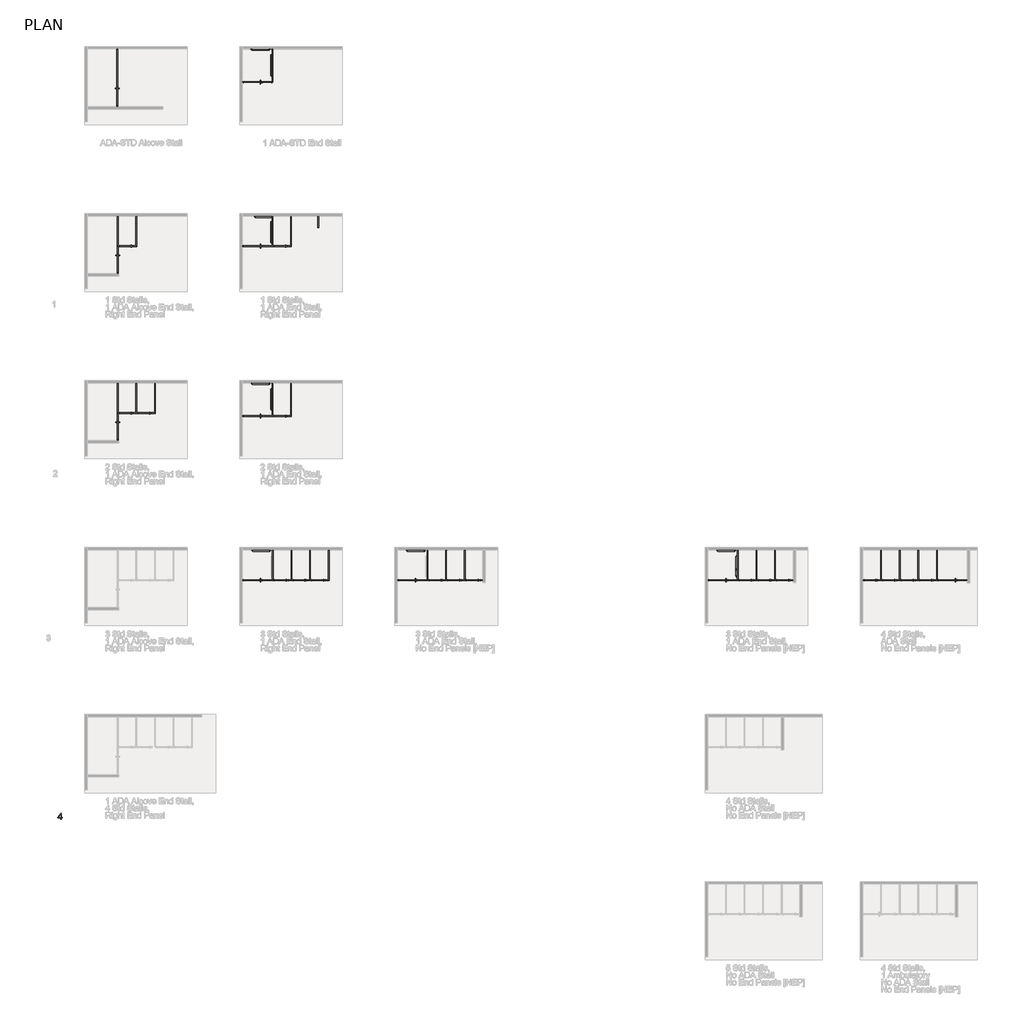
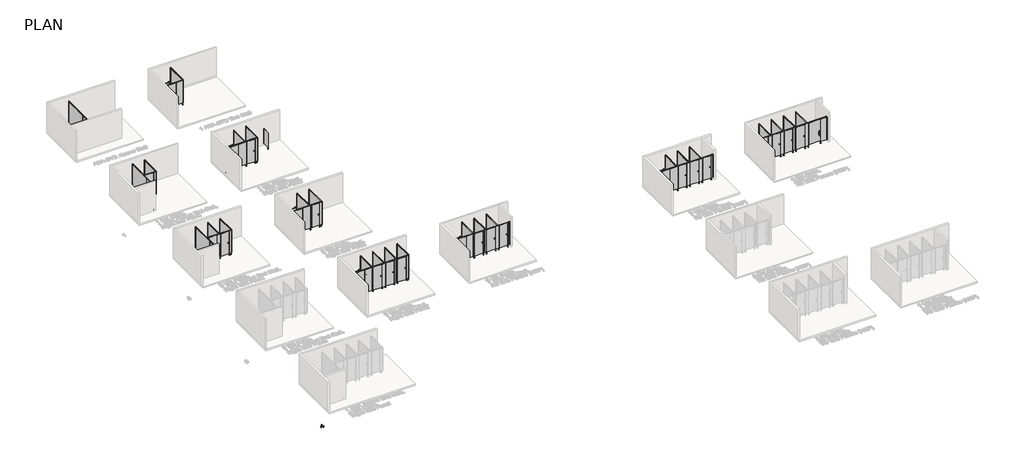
# One storey, part 2 of 21: 26 proxies.
"""IFC4 building model written with IfcOpenShell, lengths in millimetres."""

from ifc_helpers import new_model, si_unit, origin, origin_with_axes, place, context, project, spatial, polyline, outline, extrude, transform, mapped, element, save
from components import specialty_equipment_a1a55d40, specialty_equipment_827a1ed1, specialty_equipment_e34e834b, specialty_equipment_249e6da1, specialty_equipment_1f7793d3, specialty_equipment_3e80f648, specialty_equipment_5ce4a985, specialty_equipment_d99f570f, specialty_equipment_3219aa44, specialty_equipment_5f19d8a4, specialty_equipment_f79f568c, specialty_equipment_3089a15b, specialty_equipment_e9cd40da, specialty_equipment_4b52170b, specialty_equipment_f36be7ab, specialty_equipment_b5675cf3, specialty_equipment_164d930f, specialty_equipment_23c630fa, specialty_equipment_6bcbe845, specialty_equipment_0840d314, proxy_812_grab_bars1_bdd373ed, proxy_812_grab_bars1_ef4de83a, proxy_812_grab_bars1_0ab72b95

model = new_model("IFC4")

# Units and contexts
model_context = context("Model", 3, world=origin())
ifc_project = project(units=[si_unit("LENGTHUNIT", "METRE", prefix="MILLI")], contexts=[model_context])

# Site, building, storey
site = spatial("IfcSite", under=ifc_project)
building = spatial("IfcBuilding", under=site)
storey = spatial("IfcBuildingStorey", under=building, Name="PLAN", Elevation=0.0)

# Proxies
placement = place(None, origin())
specialty_equipment_shape = specialty_equipment_a1a55d40(model_context)
specialty_equipment_2_shape = specialty_equipment_827a1ed1(model_context)
element("IfcBuildingElementProxy", 1, Name="Partition_EuroStyle-Bradley_Corp-ADA_Alcove_2StandardStall-LOFT : Partition_EuroStyle-Bradley_Corp-ADA_Alcove_2StandardStall-LOFT", ObjectType="Partition_EuroStyle-Bradley_Corp-ADA_Alcove_2StandardStall-LOFT : Partition_EuroStyle-Bradley_Corp-ADA_Alcove_2StandardStall-LOFT", at=placement, inside=storey, context=model_context, shape_type="MappedRepresentation", body=[
    mapped(specialty_equipment_shape, transform((-22966.7331895, 16684.2493152, 0.0), x_axis=(1.0, 0.0, 0.0), y_axis=(0.0, 1.0, 0.0), z_axis=(0.0, 0.0, 1.0))),
    mapped(specialty_equipment_2_shape, transform((-22966.7331895, 16684.2493152, 0.0), x_axis=(1.0, 0.0, 0.0), y_axis=(0.0, 1.0, 0.0), z_axis=(0.0, 0.0, 1.0))),
])
specialty_equipment_3_shape = specialty_equipment_e34e834b(model_context)
element("IfcBuildingElementProxy", 2, Name="Partition_EuroStyle-Bradley_Corp-ADA-STD_Stall_-LOFT : Partition_EuroStyle-Bradley_Corp-ADA-STD_Stall_-LOFT", ObjectType="Partition_EuroStyle-Bradley_Corp-ADA-STD_Stall_-LOFT : Partition_EuroStyle-Bradley_Corp-ADA-STD_Stall_-LOFT", at=placement, inside=storey, context=model_context, shape_type="MappedRepresentation", body=[
    mapped(specialty_equipment_3_shape, transform((-14914.9331895, 33753.0493152, 0.0), x_axis=(1.0, 0.0, 0.0), y_axis=(0.0, 1.0, 0.0), z_axis=(0.0, 0.0, 1.0))),
])
specialty_equipment_4_shape = specialty_equipment_249e6da1(model_context)
element("IfcBuildingElementProxy", 3, Name="Partition_EuroStyle-Bradley_Corp-ADA_STD_Alcove-LOFT : Partition_EuroStyle-Bradley_Corp-ADA_STD_Alcove-LOFT", ObjectType="Partition_EuroStyle-Bradley_Corp-ADA_STD_Alcove-LOFT : Partition_EuroStyle-Bradley_Corp-ADA_STD_Alcove-LOFT", at=placement, inside=storey, context=model_context, shape_type="MappedRepresentation", body=[
    mapped(specialty_equipment_4_shape, transform((-22966.7331895, 33753.0493152, 0.0), x_axis=(1.0, 0.0, 0.0), y_axis=(0.0, 1.0, 0.0), z_axis=(0.0, 0.0, 1.0))),
])
specialty_equipment_5_shape = specialty_equipment_1f7793d3(model_context)
element("IfcBuildingElementProxy", 4, Name="Partition_Urinal_Screen-Bradley_Corp-EuroStyle_LOFT : Partition_Urinal_Screen-Bradley_Corp-EuroStyle_LOFT", ObjectType="Partition_Urinal_Screen-Bradley_Corp-EuroStyle_LOFT : Partition_Urinal_Screen-Bradley_Corp-EuroStyle_LOFT", at=placement, inside=storey, context=model_context, shape_type="MappedRepresentation", body=[
    mapped(specialty_equipment_5_shape, transform((-11157.452511, 25218.6493152, 0.0), x_axis=(1.0, 0.0, 0.0), y_axis=(0.0, 1.0, 0.0), z_axis=(0.0, 0.0, 1.0))),
])
specialty_equipment_6_shape = specialty_equipment_3e80f648(model_context)
specialty_equipment_7_shape = specialty_equipment_5ce4a985(model_context)
element("IfcBuildingElementProxy", 5, Name="Partition_EuroStyle-Bradley_Corp-ADA_Alcove_1StandardStall-LOFT : Partition_EuroStyle-Bradley_Corp-ADA_Alcove_1StandardStall-LOFT", ObjectType="Partition_EuroStyle-Bradley_Corp-ADA_Alcove_1StandardStall-LOFT : Partition_EuroStyle-Bradley_Corp-ADA_Alcove_1StandardStall-LOFT", at=placement, inside=storey, context=model_context, shape_type="MappedRepresentation", body=[
    mapped(specialty_equipment_6_shape, transform((-22966.7331895, 25218.6493152, 0.0), x_axis=(1.0, 0.0, 0.0), y_axis=(0.0, 1.0, 0.0), z_axis=(0.0, 0.0, 1.0))),
    mapped(specialty_equipment_7_shape, transform((-22966.7331895, 25218.6493152, 0.0), x_axis=(1.0, 0.0, 0.0), y_axis=(0.0, 1.0, 0.0), z_axis=(0.0, 0.0, 1.0))),
])
specialty_equipment_8_shape = specialty_equipment_d99f570f(model_context)
specialty_equipment_9_shape = specialty_equipment_3219aa44(model_context)
specialty_equipment_10_shape = specialty_equipment_5f19d8a4(model_context)
element("IfcBuildingElementProxy", 6, Name="Partition_EuroStyle-Bradley_Corp-ADAStall_3StandardStall-NEP-LOFT : Partition_EuroStyle-Bradley_Corp-ADAStall_3StandardStall-NEP-LOFT", ObjectType="Partition_EuroStyle-Bradley_Corp-ADAStall_3StandardStall-NEP-LOFT : Partition_EuroStyle-Bradley_Corp-ADAStall_3StandardStall-NEP-LOFT", at=placement, inside=storey, context=model_context, shape_type="MappedRepresentation", body=[
    mapped(specialty_equipment_8_shape, transform((-6990.1331895, 8149.8493152, 0.0), x_axis=(1.0, 0.0, 0.0), y_axis=(0.0, 1.0, 0.0), z_axis=(0.0, 0.0, 1.0))),
    mapped(specialty_equipment_9_shape, transform((-6990.1331895, 8149.8493152, 0.0), x_axis=(1.0, 0.0, 0.0), y_axis=(0.0, 1.0, 0.0), z_axis=(0.0, 0.0, 1.0))),
    mapped(specialty_equipment_10_shape, transform((-6990.1331895, 8149.8493152, 0.0), x_axis=(1.0, 0.0, 0.0), y_axis=(0.0, 1.0, 0.0), z_axis=(0.0, 0.0, 1.0))),
])
element("IfcBuildingElementProxy", 7, Name="Partition_EuroStyle-Bradley_Corp-ADAStall_3StandardStall-NEP-LOFT : Partition_EuroStyle-Bradley_Corp-ADAStall_3StandardStall-NEP-LOFT", ObjectType="Partition_EuroStyle-Bradley_Corp-ADAStall_3StandardStall-NEP-LOFT : Partition_EuroStyle-Bradley_Corp-ADAStall_3StandardStall-NEP-LOFT", at=placement, inside=storey, context=model_context, shape_type="MappedRepresentation", body=[
    mapped(specialty_equipment_8_shape, transform((8859.4668105, 8149.8493152, 0.0), x_axis=(1.0, 0.0, 0.0), y_axis=(0.0, 1.0, 0.0), z_axis=(0.0, 0.0, 1.0))),
    mapped(specialty_equipment_9_shape, transform((8859.4668105, 8149.8493152, 0.0), x_axis=(1.0, 0.0, 0.0), y_axis=(0.0, 1.0, 0.0), z_axis=(0.0, 0.0, 1.0))),
    mapped(specialty_equipment_10_shape, transform((8859.4668105, 8149.8493152, 0.0), x_axis=(1.0, 0.0, 0.0), y_axis=(0.0, 1.0, 0.0), z_axis=(0.0, 0.0, 1.0))),
])
specialty_equipment_11_shape = specialty_equipment_f79f568c(model_context)
specialty_equipment_12_shape = specialty_equipment_3089a15b(model_context)
specialty_equipment_13_shape = specialty_equipment_e9cd40da(model_context)
element("IfcBuildingElementProxy", 8, Name="Partition_EuroStyle-Bradley_Corp-ADAStall_3StandardStall-LOFT : Partition_EuroStyle-Bradley_Corp-ADAStall_3StandardStall-LOFT", ObjectType="Partition_EuroStyle-Bradley_Corp-ADAStall_3StandardStall-LOFT : Partition_EuroStyle-Bradley_Corp-ADAStall_3StandardStall-LOFT", at=placement, inside=storey, context=model_context, shape_type="MappedRepresentation", body=[
    mapped(specialty_equipment_11_shape, transform((-14914.9331895, 8149.8493152, 0.0), x_axis=(1.0, 0.0, 0.0), y_axis=(0.0, 1.0, 0.0), z_axis=(0.0, 0.0, 1.0))),
    mapped(specialty_equipment_12_shape, transform((-14914.9331895, 8149.8493152, 0.0), x_axis=(1.0, 0.0, 0.0), y_axis=(0.0, 1.0, 0.0), z_axis=(0.0, 0.0, 1.0))),
    mapped(specialty_equipment_13_shape, transform((-14914.9331895, 8149.8493152, 0.0), x_axis=(1.0, 0.0, 0.0), y_axis=(0.0, 1.0, 0.0), z_axis=(0.0, 0.0, 1.0))),
])
specialty_equipment_14_shape = specialty_equipment_4b52170b(model_context)
specialty_equipment_15_shape = specialty_equipment_f36be7ab(model_context)
element("IfcBuildingElementProxy", 9, Name="Partition_EuroStyle-Bradley_Corp-ADAStall_1StandardStall-LOFT : Partition_EuroStyle-Bradley_Corp-ADAStall_1StandardStall-LOFT", ObjectType="Partition_EuroStyle-Bradley_Corp-ADAStall_1StandardStall-LOFT : Partition_EuroStyle-Bradley_Corp-ADAStall_1StandardStall-LOFT", at=placement, inside=storey, context=model_context, shape_type="MappedRepresentation", body=[
    mapped(specialty_equipment_14_shape, transform((-14914.9331895, 16684.2493152, 0.0), x_axis=(1.0, 0.0, 0.0), y_axis=(0.0, 1.0, 0.0), z_axis=(0.0, 0.0, 1.0))),
    mapped(specialty_equipment_15_shape, transform((-14914.9331895, 16684.2493152, 0.0), x_axis=(1.0, 0.0, 0.0), y_axis=(0.0, 1.0, 0.0), z_axis=(0.0, 0.0, 1.0))),
])
specialty_equipment_16_shape = specialty_equipment_b5675cf3(model_context)
specialty_equipment_17_shape = specialty_equipment_164d930f(model_context)
element("IfcBuildingElementProxy", 10, Name="Partition_EuroStyle-Bradley_Corp-ADAStall_1StandardStall-LOFT : Partition_EuroStyle-Bradley_Corp-ADAStall_1StandardStall-LOFT", ObjectType="Partition_EuroStyle-Bradley_Corp-ADAStall_1StandardStall-LOFT : Partition_EuroStyle-Bradley_Corp-ADAStall_1StandardStall-LOFT", at=placement, inside=storey, context=model_context, shape_type="MappedRepresentation", body=[
    mapped(specialty_equipment_16_shape, transform((-14914.9331895, 25218.6493152, 0.0), x_axis=(1.0, 0.0, 0.0), y_axis=(0.0, 1.0, 0.0), z_axis=(0.0, 0.0, 1.0))),
    mapped(specialty_equipment_17_shape, transform((-14914.9331895, 25218.6493152, 0.0), x_axis=(1.0, 0.0, 0.0), y_axis=(0.0, 1.0, 0.0), z_axis=(0.0, 0.0, 1.0))),
])
specialty_equipment_18_shape = specialty_equipment_23c630fa(model_context)
specialty_equipment_19_shape = specialty_equipment_6bcbe845(model_context)
specialty_equipment_20_shape = specialty_equipment_0840d314(model_context)
element("IfcBuildingElementProxy", 11, Name="Partition_EuroStyle-Bradley_Corp-ADA-4StandardStall-NEP-LOFT : Partition_EuroStyle-Bradley_Corp-ADA-4StandardStall-NEP-LOFT", ObjectType="Partition_EuroStyle-Bradley_Corp-ADA-4StandardStall-NEP-LOFT : Partition_EuroStyle-Bradley_Corp-ADA-4StandardStall-NEP-LOFT", at=placement, inside=storey, context=model_context, shape_type="MappedRepresentation", body=[
    mapped(specialty_equipment_18_shape, transform((16785.1058603, 8149.8493152, 0.0), x_axis=(1.0, 0.0, 0.0), y_axis=(0.0, 1.0, 0.0), z_axis=(0.0, 0.0, 1.0))),
    mapped(specialty_equipment_19_shape, transform((16785.1058603, 8149.8493152, 0.0), x_axis=(1.0, 0.0, 0.0), y_axis=(0.0, 1.0, 0.0), z_axis=(0.0, 0.0, 1.0))),
    mapped(specialty_equipment_20_shape, transform((16785.1058603, 8149.8493152, 0.0), x_axis=(1.0, 0.0, 0.0), y_axis=(0.0, 1.0, 0.0), z_axis=(0.0, 0.0, 1.0))),
])
element("IfcBuildingElementProxy", 12, Name="12\" Arial", ObjectType="12\" Arial", at=placement, inside=storey, context=model_context, shape_type="SweptSolid", body=[
    extrude(outline(polyline([(-24316.1093049, -5613.5017641), (-24316.1093049, -5542.1188514), (-24454.1162694, -5542.1188514), (-24454.1162694, -5504.0479647), (-24306.5915832, -5313.6935309), (-24278.0384181, -5313.6935309), (-24278.0384181, -5504.0479647), (-24239.9675313, -5504.0479647), (-24239.9675313, -5542.1188514), (-24278.0384181, -5542.1188514), (-24278.0384181, -5613.5017641), (-24316.1093049, -5613.5017641)]), holes=[polyline([(-24316.1093049, -5504.0479647), (-24316.1093049, -5386.4148732), (-24407.2712329, -5504.0479647), (-24316.1093049, -5504.0479647)])]), origin_with_axes(), (0.0, 0.0, 1.0), 50.8),
])
proxy_812_grab_bars1_shape = proxy_812_grab_bars1_bdd373ed(model_context)
element("IfcBuildingElementProxy", 13, Name="812_Grab_Bars1 : 8122-001180", ObjectType="812_Grab_Bars1 : 8122-001180", at=placement, inside=storey, context=model_context, shape_type="MappedRepresentation", body=[
    mapped(proxy_812_grab_bars1_shape, transform((-13517.9331895, 24764.6243152, 1163.6375), x_axis=(0.0, 0.0, 1.0), y_axis=(0.0, 1.0, 0.0), z_axis=(-1.0, 0.0, 0.0))),
])
element("IfcBuildingElementProxy", 14, Name="812_Grab_Bars1 : 8122-001180", ObjectType="812_Grab_Bars1 : 8122-001180", at=placement, inside=storey, context=model_context, shape_type="MappedRepresentation", body=[
    mapped(proxy_812_grab_bars1_shape, transform((-13517.9331895, 33299.0243152, 1163.6375), x_axis=(0.0, 0.0, 1.0), y_axis=(0.0, 1.0, 0.0), z_axis=(-1.0, 0.0, 0.0))),
])
element("IfcBuildingElementProxy", 15, Name="812_Grab_Bars1 : 8122-001180", ObjectType="812_Grab_Bars1 : 8122-001180", at=placement, inside=storey, context=model_context, shape_type="MappedRepresentation", body=[
    mapped(proxy_812_grab_bars1_shape, transform((-13517.9331895, 16230.2243152, 1163.6375), x_axis=(0.0, 0.0, 1.0), y_axis=(0.0, 1.0, 0.0), z_axis=(-1.0, 0.0, 0.0))),
])
element("IfcBuildingElementProxy", 16, Name="812_Grab_Bars1 : 8122-001180", ObjectType="812_Grab_Bars1 : 8122-001180", at=placement, inside=storey, context=model_context, shape_type="MappedRepresentation", body=[
    mapped(proxy_812_grab_bars1_shape, transform((10256.4668105, 7695.8243152, 1163.6375), x_axis=(0.0, 0.0, 1.0), y_axis=(0.0, 1.0, 0.0), z_axis=(-1.0, 0.0, 0.0))),
])
proxy_812_grab_bars1_2_shape = proxy_812_grab_bars1_ef4de83a(model_context)
element("IfcBuildingElementProxy", 17, Name="812_Grab_Bars1 : 8122-001420", ObjectType="812_Grab_Bars1 : 8122-001420", at=placement, inside=storey, context=model_context, shape_type="MappedRepresentation", body=[
    mapped(proxy_812_grab_bars1_2_shape, transform((-13517.9331895, 24324.8868152, 1431.925), x_axis=(0.0, 1.0, 0.0), y_axis=(0.0, 0.0, -1.0), z_axis=(-1.0, 0.0, 0.0))),
])
element("IfcBuildingElementProxy", 18, Name="812_Grab_Bars1 : 8122-001420", ObjectType="812_Grab_Bars1 : 8122-001420", at=placement, inside=storey, context=model_context, shape_type="MappedRepresentation", body=[
    mapped(proxy_812_grab_bars1_2_shape, transform((-13517.9331895, 32859.2868152, 1431.925), x_axis=(0.0, 1.0, 0.0), y_axis=(0.0, 0.0, -1.0), z_axis=(-1.0, 0.0, 0.0))),
])
element("IfcBuildingElementProxy", 19, Name="812_Grab_Bars1 : 8122-001420", ObjectType="812_Grab_Bars1 : 8122-001420", at=placement, inside=storey, context=model_context, shape_type="MappedRepresentation", body=[
    mapped(proxy_812_grab_bars1_2_shape, transform((-13517.9331895, 15790.4868152, 1431.925), x_axis=(0.0, 1.0, 0.0), y_axis=(0.0, 0.0, -1.0), z_axis=(-1.0, 0.0, 0.0))),
])
element("IfcBuildingElementProxy", 20, Name="812_Grab_Bars1 : 8122-001420", ObjectType="812_Grab_Bars1 : 8122-001420", at=placement, inside=storey, context=model_context, shape_type="MappedRepresentation", body=[
    mapped(proxy_812_grab_bars1_2_shape, transform((10256.4668105, 7256.0868152, 1431.925), x_axis=(0.0, 1.0, 0.0), y_axis=(0.0, 0.0, -1.0), z_axis=(-1.0, 0.0, 0.0))),
])
proxy_812_grab_bars1_3_shape = proxy_812_grab_bars1_0ab72b95(model_context)
element("IfcBuildingElementProxy", 21, Name="812_Grab_Bars1 : 8122-001360", ObjectType="812_Grab_Bars1 : 8122-001360", at=placement, inside=storey, context=model_context, shape_type="MappedRepresentation", body=[
    mapped(proxy_812_grab_bars1_3_shape, transform((-14046.5706895, 16684.2493152, 1431.925), x_axis=(-1.0, 0.0, 0.0), y_axis=(0.0, 0.0, -1.0), z_axis=(0.0, -1.0, 0.0))),
])
element("IfcBuildingElementProxy", 22, Name="812_Grab_Bars1 : 8122-001360", ObjectType="812_Grab_Bars1 : 8122-001360", at=placement, inside=storey, context=model_context, shape_type="MappedRepresentation", body=[
    mapped(proxy_812_grab_bars1_3_shape, transform((-14021.1706895, 8149.8493152, 1431.925), x_axis=(-1.0, 0.0, 0.0), y_axis=(0.0, 0.0, -1.0), z_axis=(0.0, -1.0, 0.0))),
])
element("IfcBuildingElementProxy", 23, Name="812_Grab_Bars1 : 8122-001360", ObjectType="812_Grab_Bars1 : 8122-001360", at=placement, inside=storey, context=model_context, shape_type="MappedRepresentation", body=[
    mapped(proxy_812_grab_bars1_3_shape, transform((-6121.7706895, 8149.8493152, 1431.925), x_axis=(-1.0, 0.0, 0.0), y_axis=(0.0, 0.0, -1.0), z_axis=(0.0, -1.0, 0.0))),
])
element("IfcBuildingElementProxy", 24, Name="812_Grab_Bars1 : 8122-001360", ObjectType="812_Grab_Bars1 : 8122-001360", at=placement, inside=storey, context=model_context, shape_type="MappedRepresentation", body=[
    mapped(proxy_812_grab_bars1_3_shape, transform((-13894.1706895, 25218.6493152, 1431.925), x_axis=(-1.0, 0.0, 0.0), y_axis=(0.0, 0.0, -1.0), z_axis=(0.0, -1.0, 0.0))),
])
element("IfcBuildingElementProxy", 25, Name="812_Grab_Bars1 : 8122-001360", ObjectType="812_Grab_Bars1 : 8122-001360", at=placement, inside=storey, context=model_context, shape_type="MappedRepresentation", body=[
    mapped(proxy_812_grab_bars1_3_shape, transform((-14046.5706895, 33753.0493152, 1431.925), x_axis=(-1.0, 0.0, 0.0), y_axis=(0.0, 0.0, -1.0), z_axis=(0.0, -1.0, 0.0))),
])
element("IfcBuildingElementProxy", 26, Name="812_Grab_Bars1 : 8122-001360", ObjectType="812_Grab_Bars1 : 8122-001360", at=placement, inside=storey, context=model_context, shape_type="MappedRepresentation", body=[
    mapped(proxy_812_grab_bars1_3_shape, transform((9727.8293105, 8149.8493152, 1431.925), x_axis=(-1.0, 0.0, 0.0), y_axis=(0.0, 0.0, -1.0), z_axis=(0.0, -1.0, 0.0))),
])

save(model, "model.ifc")
